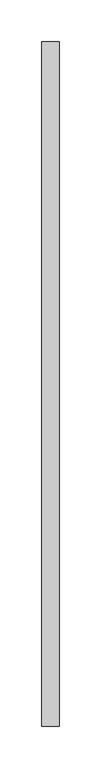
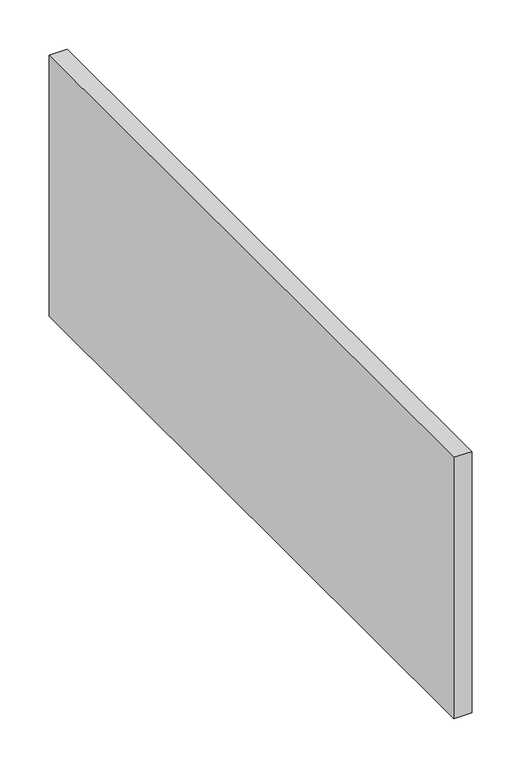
"""IFC4 building model written with IfcOpenShell, lengths in millimetres: duct fitting geometry, MEP_15.03 Injerto Conducte : Mínimo."""

from ifc_helpers import new_model, si_unit, frame, origin, place, context, project, spatial, polyline, outline, extrude, source, transform, mapped, element, save


def duct_fitting_c89ca806(model_context):
    return source(origin(), model_context, "Body", "SweptSolid", [
        extrude(outline(polyline([(-6.096, -412.5), (-6.096, 412.5), (15.0, 412.5), (15.0, -412.5), (-6.096, -412.5)])), frame((0.0, 0.0, -162.5), z_axis=(0.0, 0.0, 1.0), x_axis=(1.0, 0.0, 0.0)), (0.0, 0.0, 1.0), 325.0),
    ])


if __name__ == "__main__":
    model = new_model("IFC4")
    model_context = context("Model", 3, world=origin())
    ifc_project = project(units=[si_unit("LENGTHUNIT", "METRE", prefix="MILLI")], contexts=[model_context])
    site = spatial("IfcSite", under=ifc_project)
    building = spatial("IfcBuilding", under=site)
    placement = place(None, origin())
    duct_fitting_shape = duct_fitting_c89ca806(model_context)
    element("IfcDuctFitting", 1, ObjectType="MEP_15.03 Injerto Conducte : Mínimo", at=placement, inside=building, context=model_context, shape_type="MappedRepresentation", body=[
        mapped(duct_fitting_shape, transform((0.0, 0.0, 0.0), x_axis=(1.0, 0.0, 0.0), y_axis=(0.0, 1.0, 0.0), z_axis=(0.0, 0.0, 1.0))),
    ])
    save(model, "model.ifc")
